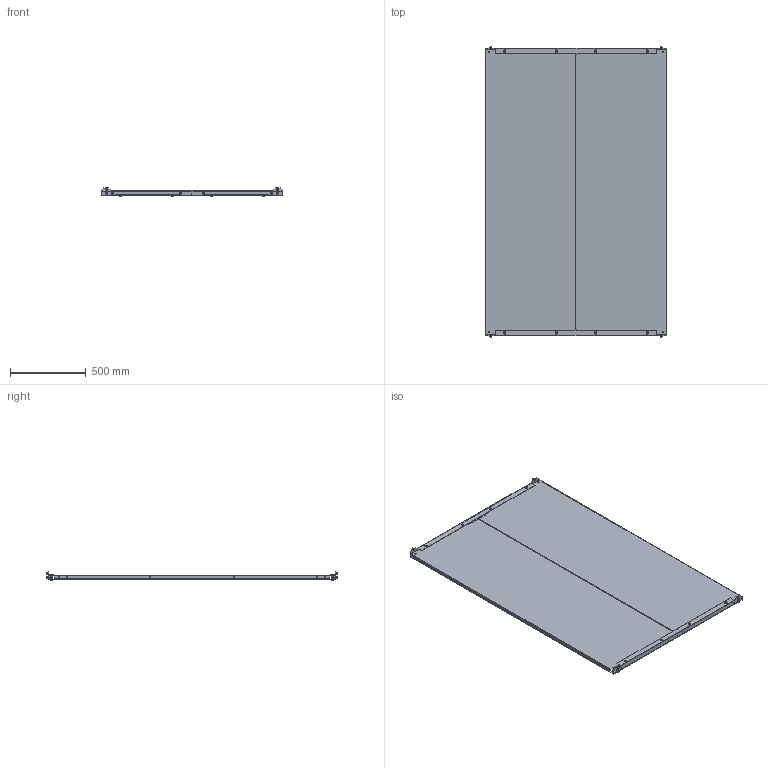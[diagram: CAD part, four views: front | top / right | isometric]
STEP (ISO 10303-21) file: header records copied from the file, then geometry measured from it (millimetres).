
FILE_DESCRIPTION(('Open CASCADE Model'),'2;1');
FILE_NAME('Open CASCADE Shape Model','2025-02-13T16:50:02',('Author'),( 'Open CASCADE'),'Open CASCADE STEP processor 7.8','Open CASCADE 7.8' ,'Unknown');
FILE_SCHEMA(('AUTOMOTIVE_DESIGN { 1 0 10303 214 1 1 1 1 }'));
Length unit declared in the file: millimetre
Products named in the file (14): Compound1; Compound2; Solid1; Solid2; Solid3; Solid4; Compound3; Solid5; Solid6; Solid7; Solid8; Solid9; Solid10; Solid11
Assembly tree (72 placements, depth 3):
  Compound1
    Compound2
      Solid1  x2
      Solid2  x2
      Solid3  x12
      Solid4  x12
    Compound3  x2
      Solid5
      Solid6
    Solid3  x4
    Solid7  x4
    Solid8  x8
    Solid9  x4
    Solid10  x8
    Solid11  x8
Bounding box: 1200 x 1926 x 55.3 mm (x, y, z)
Volume: 7212552.2 mm3; surface area: 5825847.2 mm2
Topology: 74 solids, 74 shells, 4332 faces, 11362 edges, 7154 vertices
Faces by surface type: plane 2088, cylinder 1212, cone 440, bspline 376, torus 200, sphere 16
Full cylindrical faces by diameter (mm): 5 x24, 6 x40, 6.5 x8, 6.8 x64, 8 x8, 8.3 x8, 8.4 x4, 9.5 x8, 10.1 x8, 10.44 x8, 10.5 x8, 11.57 x8, 12 x8, 12.65 x8, 16 x20, 16.55 x16
Entity records: 25786 total; most frequent: CARTESIAN_POINT 6836, ORIENTED_EDGE 3986, DIRECTION 3650, EDGE_CURVE 1993, VERTEX_POINT 1277, LINE 1276, VECTOR 1276, AXIS2_PLACEMENT_3D 1187
